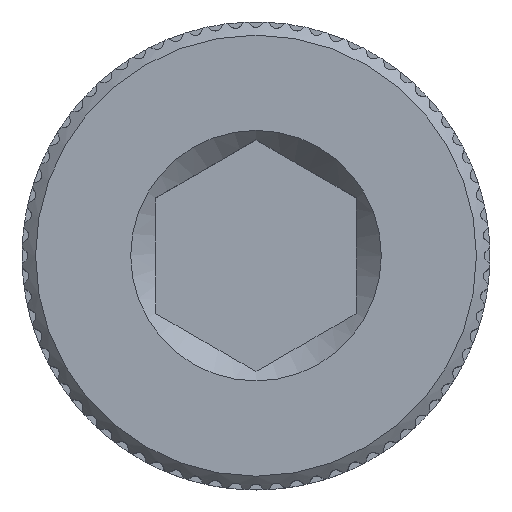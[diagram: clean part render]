
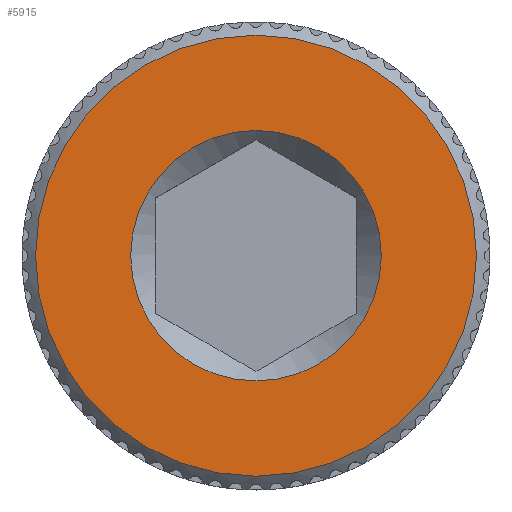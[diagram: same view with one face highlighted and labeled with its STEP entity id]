
A CAD part, top view. The second image highlights one B-rep face of the part: STEP entity #5915.
In plain terms, the highlighted planar face has unit normal (0, 0, 1).
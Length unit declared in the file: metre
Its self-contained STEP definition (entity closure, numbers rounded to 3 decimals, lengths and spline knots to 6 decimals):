
#15=PLANE('',#6399);
#2127=ORIENTED_EDGE('',*,*,#3451,.F.);
#2128=ORIENTED_EDGE('',*,*,#3737,.F.);
#3451=EDGE_CURVE('NONE',#4408,#4408,#4978,.T.);
#3737=EDGE_CURVE('NONE',#4685,#4685,#5051,.T.);
#4408=VERTEX_POINT('',#8882);
#4685=VERTEX_POINT('',#10091);
#4978=CIRCLE('',#6245,0.001875);
#5051=CIRCLE('',#6319,0.0033);
#5214=EDGE_LOOP('',(#2127));
#5215=EDGE_LOOP('',(#2128));
#5530=FACE_BOUND('',#5214,.T.);
#5531=FACE_BOUND('',#5215,.T.);
#5915=ADVANCED_FACE('NONE',(#5530,#5531),#15,.T.);
#6245=AXIS2_PLACEMENT_3D('',#8881,#6823,#6824);
#6319=AXIS2_PLACEMENT_3D('',#10090,#6971,#6972);
#6399=AXIS2_PLACEMENT_3D('',#10462,#7275,#7276);
#6823=DIRECTION('',(0.,0.,1.));
#6824=DIRECTION('',(1.,0.,0.));
#6971=DIRECTION('',(0.,0.,-1.));
#6972=DIRECTION('',(0.,1.,0.));
#7275=DIRECTION('',(0.,0.,1.));
#7276=DIRECTION('',(0.,-1.,0.));
#8881=CARTESIAN_POINT('',(0.,0.,0.007));
#8882=CARTESIAN_POINT('',(0.001875,0.,0.007));
#10090=CARTESIAN_POINT('',(0.,0.,0.007));
#10091=CARTESIAN_POINT('',(0.,0.0033,0.007));
#10462=CARTESIAN_POINT('',(0.,0.,0.007));
